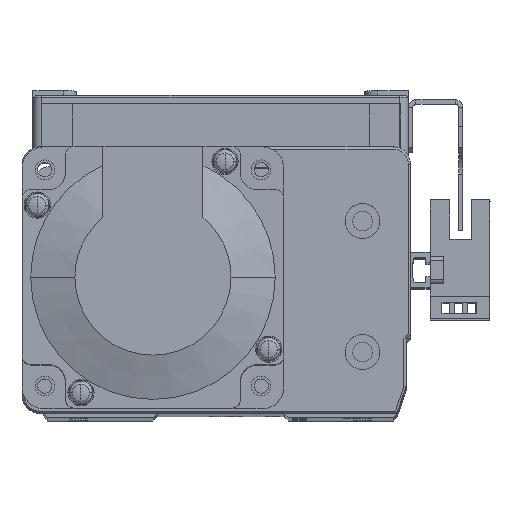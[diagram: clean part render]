
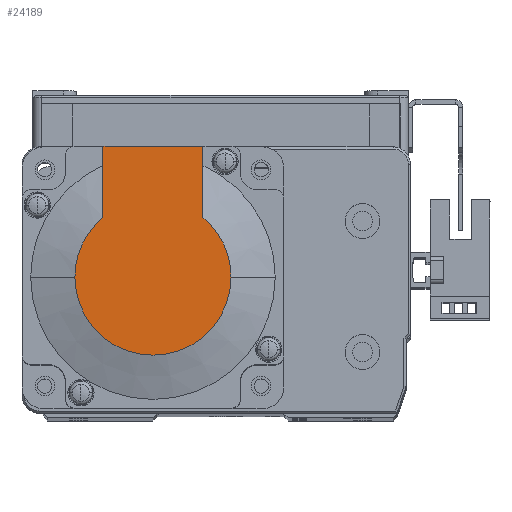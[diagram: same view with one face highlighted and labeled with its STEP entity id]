
A CAD part, top view. The second image highlights one B-rep face of the part: STEP entity #24189.
In plain terms, the highlighted planar face has unit normal (0, 0, 1) as drawn and (-1, 0, 0) by its records, which use the part's own axes.
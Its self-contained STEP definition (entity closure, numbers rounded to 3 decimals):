
#10018 = EDGE_CURVE ( 'NONE', #45466, #45425, #30563, .T. ) ;
#10078 = EDGE_CURVE ( 'NONE', #45442, #45466, #30602, .T. ) ;
#10288 = EDGE_CURVE ( 'NONE', #45644, #45442, #31033, .T. ) ;
#10360 = EDGE_CURVE ( 'NONE', #45643, #45425, #31156, .T. ) ;
#10361 = EDGE_CURVE ( 'NONE', #45674, #45644, #31125, .T. ) ;
#10377 = EDGE_CURVE ( 'NONE', #45674, #45643, #31136, .T. ) ;
#23461 = CARTESIAN_POINT ( 'NONE',  ( -99., 0., -17.881 ) ) ;
#23468 = CARTESIAN_POINT ( 'NONE',  ( -99., 0., 17.881 ) ) ;
#23470 = CARTESIAN_POINT ( 'NONE',  ( -99., 13.735, 11.45 ) ) ;
#24189 = ADVANCED_FACE ( 'NONE', ( #36748 ), #41871, .T. ) ;
#26122 = ORIENTED_EDGE ( 'NONE', *, *, #10377, .F. ) ;
#26129 = ORIENTED_EDGE ( 'NONE', *, *, #10360, .F. ) ;
#26134 = ORIENTED_EDGE ( 'NONE', *, *, #10078, .T. ) ;
#26135 = ORIENTED_EDGE ( 'NONE', *, *, #10018, .T. ) ;
#26138 = ORIENTED_EDGE ( 'NONE', *, *, #10361, .T. ) ;
#26160 = ORIENTED_EDGE ( 'NONE', *, *, #10288, .T. ) ;
#29168 = CARTESIAN_POINT ( 'NONE',  ( -99., 30., -11.45 ) ) ;
#29208 = CARTESIAN_POINT ( 'NONE',  ( -99., 30., 11.45 ) ) ;
#29228 = CARTESIAN_POINT ( 'NONE',  ( -99., 13.735, -11.45 ) ) ;
#30237 = EDGE_LOOP ( 'NONE', ( #26138, #26160, #26134, #26135, #26129, #26122 ) ) ;
#30563 = CIRCLE ( 'NONE', #33233, 17.881 ) ;
#30602 = CIRCLE ( 'NONE', #33258, 17.881 ) ;
#31033 = CIRCLE ( 'NONE', #33275, 17.881 ) ;
#31116 = VECTOR ( 'NONE', #32509, 1000. ) ;
#31125 = LINE ( 'NONE', #32448, #31159 ) ;
#31126 = VECTOR ( 'NONE', #32450, 1000. ) ;
#31136 = LINE ( 'NONE', #32508, #31116 ) ;
#31156 = LINE ( 'NONE', #32445, #31126 ) ;
#31159 = VECTOR ( 'NONE', #32465, 1000. ) ;
#31633 = CARTESIAN_POINT ( 'NONE',  ( -99., 0., 0. ) ) ;
#31636 = DIRECTION ( 'NONE',  ( -1., 0., 0. ) ) ;
#31637 = DIRECTION ( 'NONE',  ( 0., 0., -1. ) ) ;
#31777 = CARTESIAN_POINT ( 'NONE',  ( -99., 0., 0. ) ) ;
#31796 = DIRECTION ( 'NONE',  ( 0., 0., -1. ) ) ;
#31801 = DIRECTION ( 'NONE',  ( -1., 0., 0. ) ) ;
#32286 = DIRECTION ( 'NONE',  ( -1., 0., 0. ) ) ;
#32297 = DIRECTION ( 'NONE',  ( 0., 0., -1. ) ) ;
#32308 = CARTESIAN_POINT ( 'NONE',  ( -99., 0., 0. ) ) ;
#32445 = CARTESIAN_POINT ( 'NONE',  ( -99., 0., 11.45 ) ) ;
#32448 = CARTESIAN_POINT ( 'NONE',  ( -99., -8.941, -11.45 ) ) ;
#32450 = DIRECTION ( 'NONE',  ( 0., -1., 0. ) ) ;
#32465 = DIRECTION ( 'NONE',  ( 0., -1., 0. ) ) ;
#32508 = CARTESIAN_POINT ( 'NONE',  ( -99., 30., 25. ) ) ;
#32509 = DIRECTION ( 'NONE',  ( 0., 0., 1. ) ) ;
#33233 = AXIS2_PLACEMENT_3D ( 'NONE', #31633, #31636, #31637 ) ;
#33258 = AXIS2_PLACEMENT_3D ( 'NONE', #31777, #31801, #31796 ) ;
#33275 = AXIS2_PLACEMENT_3D ( 'NONE', #32308, #32286, #32297 ) ;
#33878 = AXIS2_PLACEMENT_3D ( 'NONE', #41795, #41821, #41787 ) ;
#36748 = FACE_OUTER_BOUND ( 'NONE', #30237, .T. ) ;
#41787 = DIRECTION ( 'NONE',  ( 0., 0., 1. ) ) ;
#41795 = CARTESIAN_POINT ( 'NONE',  ( -99., -8.941, 0. ) ) ;
#41821 = DIRECTION ( 'NONE',  ( -1., 0., 0. ) ) ;
#41871 = PLANE ( 'NONE',  #33878 ) ;
#45425 = VERTEX_POINT ( 'NONE', #23470 ) ;
#45442 = VERTEX_POINT ( 'NONE', #23461 ) ;
#45466 = VERTEX_POINT ( 'NONE', #23468 ) ;
#45643 = VERTEX_POINT ( 'NONE', #29208 ) ;
#45644 = VERTEX_POINT ( 'NONE', #29228 ) ;
#45674 = VERTEX_POINT ( 'NONE', #29168 ) ;
